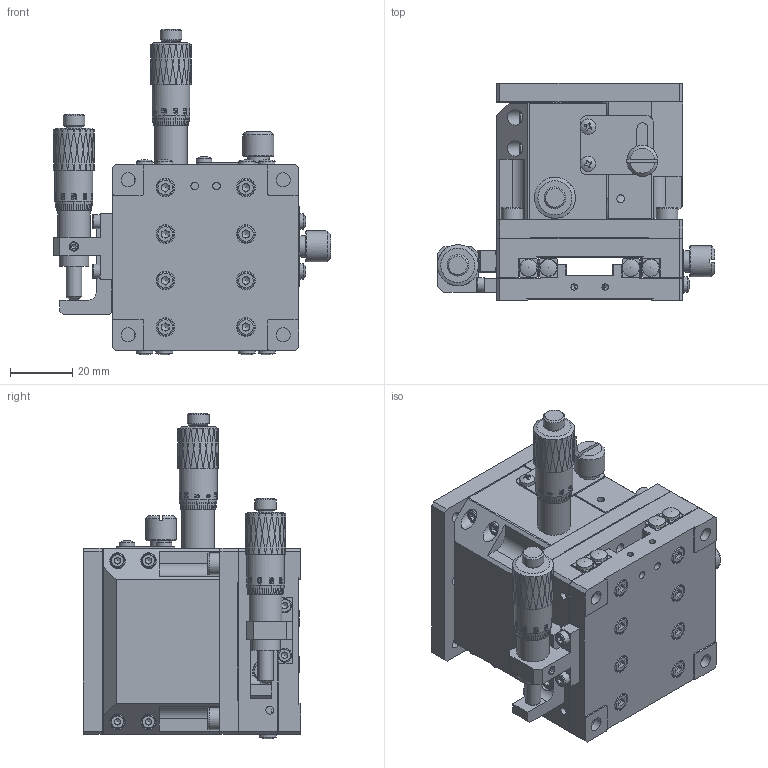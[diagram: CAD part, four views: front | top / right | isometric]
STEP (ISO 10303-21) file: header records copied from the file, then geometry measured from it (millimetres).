
FILE_DESCRIPTION (( 'STEP AP203' ), '1' );
FILE_NAME ('BLE60.STEP', '2024-07-27T06:17:31', ( 'Windows User' ), ( 'P R C' ), 'SwSTEP 2.0', 'SolidWorks 2024', '' );
FILE_SCHEMA (( 'CONFIG_CONTROL_DESIGN' ));
Products named in the file (1): BLE60
Bounding box: 89.4 x 70 x 105.14 mm (x, y, z)
Volume: 209000.7 mm3; surface area: 111602.2 mm2
Topology: 68 solids, 68 shells, 3364 faces, 8298 edges, 5337 vertices
Faces by surface type: plane 1420, bspline 798, cylinder 662, cone 436, torus 41, sphere 7
Full cylindrical faces by diameter (mm): 2 x22, 2.05 x31, 2.5 x46, 2.55 x28, 2.6 x2, 2.9 x4, 2.95 x18, 3 x26, 3.1 x2, 3.2 x2, 3.3 x17, 3.4 x27, 4 x4, 4.3 x1, 4.4 x28, 4.5 x14, 5 x17, 5.5 x27, 5.8 x2, 6 x28, 7 x11, 8 x4, 8.5 x4, 9.5 x4, 10 x2, 10.5 x2, 11 x1, 12.2 x2, 15 x2
Entity records: 157860 total; most frequent: CARTESIAN_POINT 89472, ORIENTED_EDGE 14774, DIRECTION 11032, EDGE_CURVE 7387, VERTEX_POINT 5102, EDGE_LOOP 4623, AXIS2_PLACEMENT_3D 4159, FACE_OUTER_BOUND 3745
